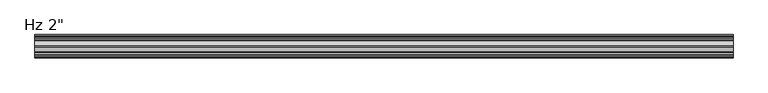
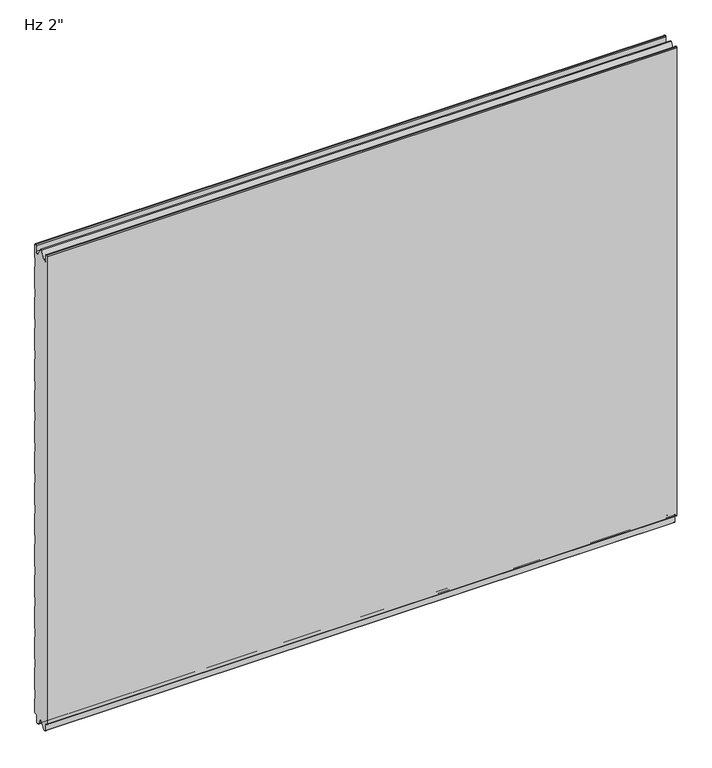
"""IFC4 building model written with IfcOpenShell, lengths in millimetres: plate geometry."""

from ifc_helpers import new_model, si_unit, frame, origin, place, context, project, spatial, polyline, circle_curve, source, transform, mapped, element, save
from ifc_brep_helpers import plane_surface, cylinder_surface, revolved_surface, advanced_brep


def plate_b4bd3f8d(model_context):
    return source(origin(), model_context, "Body", "AdvancedBrep", [
        advanced_brep(
        [(-730.0, -2.9775467, 3.8505994), (-730.0, -5.2690127, 3.8505994), (-730.0, -9.2466047, -0.1269926), (-730.0, -9.2466047, -15.7237817), (-730.0, -9.8343998, -16.3115768), (-730.0, -12.9058755, -16.3115768), (-730.0, -13.4937293, -15.723723), (-730.0, -13.4937293, -13.3687064), (-730.0, -14.4937446, -13.3687064), (-730.0, -14.4937446, -15.6582851), (-730.0, -23.7509179, 0.0), (-730.0, -27.0490865, 0.0), (-730.0, -36.3062598, -15.6582851), (-730.0, -36.3062598, -13.3687064), (-730.0, -37.3062598, -13.3687064), (-730.0, -37.3062598, -15.723742), (-730.0, -37.8941365, -16.3116186), (-730.0, -40.9656854, -16.3116186), (-730.0, -41.5535623, -15.7237417), (-730.0, -41.5535623, -0.1273173), (-730.0, -45.5308295, 3.8499499), (-730.0, -47.8227194, 3.8499499), (-730.0, -49.7999935, 5.8272239), (-730.0, -49.8, 1150.8100652), (-730.0, -47.8227315, 1152.7873337), (-730.0, -46.7806329, 1152.7873337), (-730.0, -44.8033643, 1150.8100652), (-730.0, -44.8033643, 1136.6216802), (-730.0, -42.2154878, 1134.0338036), (-730.0, -37.8950697, 1134.0338036), (-730.0, -37.3060762, 1133.4253365), (-730.0, -37.3060762, 1131.0482432), (-730.0, -36.3066023, 1131.0482432), (-730.0, -36.3066023, 1136.4905123), (-730.0, -27.0490865, 1152.525), (-730.0, -23.7509179, 1152.525), (-730.0, -14.4934021, 1136.4905123), (-730.0, -14.4934021, 1131.0482432), (-730.0, -13.4939418, 1131.0482432), (-730.0, -13.4939418, 1133.4253475), (-730.0, -12.9049279, 1134.0338476), (-730.0, -8.5845971, 1134.0338476), (-730.0, -5.9968035, 1136.6216411), (-730.0, -5.9968035, 1150.8103903), (-730.0, -4.0192093, 1152.7879845), (-730.0, -2.9770147, 1152.7879845), (-730.0, -1.0005251, 1150.811495), (-730.0, -1.0005251, 1118.6385351), (-730.0, -2.1911639, 1117.5660142), (-730.0, -2.1911639, 1097.7830195), (-730.0, -1.0000044, 1096.7104947), (-730.0, -1.0000044, 1043.0159187), (-730.0, -2.1911639, 1041.9433939), (-730.0, -2.1911639, 1022.1603992), (-730.0, -1.0000044, 1021.0878744), (-730.0, -1.0000044, 967.3932985), (-730.0, -2.1911639, 966.3207736), (-730.0, -2.1911639, 946.537779), (-730.0, -1.0000044, 945.4652541), (-730.0, -1.0000044, 891.7706782), (-730.0, -2.1911639, 890.6981534), (-730.0, -2.1911639, 870.9151587), (-730.0, -1.0000044, 869.8426339), (-730.0, -1.0000044, 816.148058), (-730.0, -2.1911639, 815.0755331), (-730.0, -2.1911639, 795.2925384), (-730.0, -1.0000044, 794.2200136), (-730.0, -1.0000044, 740.5254377), (-730.0, -2.1911639, 739.4529129), (-730.0, -2.1911639, 719.6699182), (-730.0, -1.0000044, 718.5973933), (-730.0, -1.0000044, 664.9028174), (-730.0, -2.1911639, 663.8302926), (-730.0, -2.1911639, 644.0472979), (-730.0, -1.0000044, 642.9747731), (-730.0, -1.0000044, 589.2801972), (-730.0, -2.1911639, 588.2076723), (-730.0, -2.1911639, 568.4246776), (-730.0, -1.0000044, 567.3521528), (-730.0, -1.0000044, 513.6575769), (-730.0, -2.1911639, 512.5850521), (-730.0, -2.1911639, 492.8020574), (-730.0, -1.0000044, 491.7295325), (-730.0, -1.0000044, 438.0349566), (-730.0, -2.1911639, 436.9624318), (-730.0, -2.1911639, 417.1794371), (-730.0, -1.0000044, 416.1069123), (-730.0, -1.0000044, 362.4123364), (-730.0, -2.1911639, 361.3398115), (-730.0, -2.1911639, 341.5568169), (-730.0, -1.0000044, 340.484292), (-730.0, -1.0000044, 286.7897161), (-730.0, -2.1911639, 285.7171913), (-730.0, -2.1911639, 265.9341966), (-730.0, -1.0000044, 264.8616718), (-730.0, -1.0000044, 211.1670958), (-730.0, -2.1911639, 210.094571), (-730.0, -2.1911639, 190.3115763), (-730.0, -1.0000044, 189.2390515), (-730.0, -1.0000044, 135.5444756), (-730.0, -2.1911639, 134.4719507), (-730.0, -2.1911639, 114.6889561), (-730.0, -1.0000044, 113.6164312), (-730.0, -1.0000044, 59.9218553), (-730.0, -2.1911639, 58.8493305), (-730.0, -2.1911639, 39.0663358), (-730.0, -0.9994917, 37.993811), (-730.0, -0.9994917, 5.8286544), (730.0, -2.9775467, 3.8505994), (730.0, -0.9994917, 5.8286544), (730.0, -0.9994917, 37.993811), (730.0, -2.1911639, 39.0663358), (730.0, -2.1911639, 58.8493305), (730.0, -1.0000044, 59.9218553), (730.0, -1.0000044, 113.6164312), (730.0, -2.1911639, 114.6889561), (730.0, -2.1911639, 134.4719507), (730.0, -1.0000044, 135.5444756), (730.0, -1.0000044, 189.2390515), (730.0, -2.1911639, 190.3115763), (730.0, -2.1911639, 210.094571), (730.0, -1.0000044, 211.1670958), (730.0, -1.0000044, 264.8616718), (730.0, -2.1911639, 265.9341966), (730.0, -2.1911639, 285.7171913), (730.0, -1.0000044, 286.7897161), (730.0, -1.0000044, 340.484292), (730.0, -2.1911639, 341.5568169), (730.0, -2.1911639, 361.3398115), (730.0, -1.0000044, 362.4123364), (730.0, -1.0000044, 416.1069123), (730.0, -2.1911639, 417.1794371), (730.0, -2.1911639, 436.9624318), (730.0, -1.0000044, 438.0349566), (730.0, -1.0000044, 491.7295325), (730.0, -2.1911639, 492.8020574), (730.0, -2.1911639, 512.5850521), (730.0, -1.0000044, 513.6575769), (730.0, -1.0000044, 567.3521528), (730.0, -2.1911639, 568.4246776), (730.0, -2.1911639, 588.2076723), (730.0, -1.0000044, 589.2801972), (730.0, -1.0000044, 642.9747731), (730.0, -2.1911639, 644.0472979), (730.0, -2.1911639, 663.8302926), (730.0, -1.0000044, 664.9028174), (730.0, -1.0000044, 718.5973933), (730.0, -2.1911639, 719.6699182), (730.0, -2.1911639, 739.4529129), (730.0, -1.0000044, 740.5254377), (730.0, -1.0000044, 794.2200136), (730.0, -2.1911639, 795.2925384), (730.0, -2.1911639, 815.0755331), (730.0, -1.0000044, 816.148058), (730.0, -1.0000044, 869.8426339), (730.0, -2.1911639, 870.9151587), (730.0, -2.1911639, 890.6981534), (730.0, -1.0000044, 891.7706782), (730.0, -1.0000044, 945.4652541), (730.0, -2.1911639, 946.537779), (730.0, -2.1911639, 966.3207736), (730.0, -1.0000044, 967.3932985), (730.0, -1.0000044, 1021.0878744), (730.0, -2.1911639, 1022.1603992), (730.0, -2.1911639, 1041.9433939), (730.0, -1.0000044, 1043.0159187), (730.0, -1.0000044, 1096.7104947), (730.0, -2.1911639, 1097.7830195), (730.0, -2.1911639, 1117.5660142), (730.0, -1.0005251, 1118.6385351), (730.0, -1.0005251, 1150.811495), (730.0, -2.9770147, 1152.7879845), (730.0, -4.0192093, 1152.7879845), (730.0, -5.9968035, 1150.8103903), (730.0, -5.9968035, 1136.6216411), (730.0, -8.5845971, 1134.0338476), (730.0, -12.9049279, 1134.0338476), (730.0, -13.4939418, 1133.4253475), (730.0, -13.4939418, 1131.0482432), (730.0, -14.4934021, 1131.0482432), (730.0, -14.4934021, 1136.4905123), (730.0, -23.7509179, 1152.525), (730.0, -27.0490865, 1152.525), (730.0, -36.3066023, 1136.4905123), (730.0, -36.3066023, 1131.0482432), (730.0, -37.3060762, 1131.0482432), (730.0, -37.3060762, 1133.4253365), (730.0, -37.8950697, 1134.0338036), (730.0, -42.2154878, 1134.0338036), (730.0, -44.8033643, 1136.6216802), (730.0, -44.8033643, 1150.8100652), (730.0, -46.7806329, 1152.7873337), (730.0, -47.8227315, 1152.7873337), (730.0, -49.8, 1150.8100652), (730.0, -49.8, 5.8272239), (730.0, -47.8227194, 3.8499499), (730.0, -45.5308295, 3.8499499), (730.0, -41.5535623, -0.1273173), (730.0, -41.5535623, -15.7237417), (730.0, -40.9656854, -16.3116186), (730.0, -37.8941365, -16.3116186), (730.0, -37.3062598, -15.723742), (730.0, -37.3062598, -13.3687064), (730.0, -36.3062598, -13.3687064), (730.0, -36.3062598, -15.6582851), (730.0, -27.0490865, 0.0), (730.0, -23.7509179, 0.0), (730.0, -14.4937446, -15.6582851), (730.0, -14.4937446, -13.3687064), (730.0, -13.4937293, -13.3687064), (730.0, -13.4937293, -15.723723), (730.0, -12.9058755, -16.3115768), (730.0, -9.8343998, -16.3115768), (730.0, -9.2466047, -15.7237817), (730.0, -9.2466047, -0.1269926), (730.0, -5.2690127, 3.8505994)],
        [
            (0, 1),
            (1, 2, circle_curve(frame((-730.0, -5.2690127, -0.1269926), z_axis=(1.0, 0.0, 0.0), x_axis=(0.0, 1.0, 0.0)), 3.977592)),
            (2, 3),
            (3, 4, circle_curve(frame((-730.0, -9.8343998, -15.7237817), z_axis=(-1.0, 0.0, 0.0), x_axis=(0.0, 1.0, 0.0)), 0.5877951)),
            (4, 5),
            (5, 6, circle_curve(frame((-730.0, -12.9058755, -15.723723), z_axis=(-1.0, 0.0, 0.0), x_axis=(0.0, 1.0, 0.0)), 0.5878538)),
            (6, 7),
            (7, 8),
            (8, 9),
            (9, 10),
            (10, 11),
            (11, 12),
            (12, 13),
            (13, 14),
            (14, 15),
            (15, 16, circle_curve(frame((-730.0, -37.8941365, -15.723742), z_axis=(-1.0, 0.0, 0.0), x_axis=(0.0, 1.0, 0.0)), 0.5878766)),
            (16, 17),
            (17, 18, circle_curve(frame((-730.0, -40.9656854, -15.7237417), z_axis=(-1.0, 0.0, 0.0), x_axis=(0.0, 1.0, 0.0)), 0.5878769)),
            (18, 19),
            (19, 20, circle_curve(frame((-730.0, -45.5308295, -0.1273173), z_axis=(1.0, 0.0, 0.0), x_axis=(0.0, 1.0, 0.0)), 3.9772671)),
            (20, 21),
            (21, 22, circle_curve(frame((-730.0, -47.8227194, 5.8272239), z_axis=(-1.0, 0.0, 0.0), x_axis=(0.0, 1.0, 0.0)), 1.977274)),
            (22, 23),
            (23, 24, circle_curve(frame((-730.0, -47.8227315, 1150.8100652), z_axis=(-1.0, 0.0, 0.0), x_axis=(0.0, 1.0, 0.0)), 1.9772685)),
            (24, 25),
            (25, 26, circle_curve(frame((-730.0, -46.7806329, 1150.8100652), z_axis=(-1.0, 0.0, 0.0), x_axis=(0.0, 1.0, 0.0)), 1.9772685)),
            (26, 27),
            (27, 28, circle_curve(frame((-730.0, -42.2154878, 1136.6216802), z_axis=(1.0, 0.0, 0.0), x_axis=(0.0, 1.0, 0.0)), 2.5878765)),
            (28, 29),
            (29, 30, circle_curve(frame((-730.0, -37.8950697, 1133.4444985), z_axis=(-1.0, 0.0, 0.0), x_axis=(0.0, 1.0, 0.0)), 0.5893051)),
            (30, 31),
            (31, 32),
            (32, 33),
            (33, 34),
            (34, 35),
            (35, 36),
            (36, 37),
            (37, 38),
            (38, 39),
            (39, 40, circle_curve(frame((-730.0, -12.9049279, 1133.4445216), z_axis=(-1.0, 0.0, 0.0), x_axis=(0.0, 1.0, 0.0)), 0.589326)),
            (40, 41),
            (41, 42, circle_curve(frame((-730.0, -8.5845971, 1136.6216411), z_axis=(1.0, 0.0, 0.0), x_axis=(0.0, 1.0, 0.0)), 2.5877935)),
            (42, 43),
            (43, 44, circle_curve(frame((-730.0, -4.0192093, 1150.8103903), z_axis=(-1.0, 0.0, 0.0), x_axis=(0.0, 1.0, 0.0)), 1.9775943)),
            (44, 45),
            (45, 46, circle_curve(frame((-730.0, -2.9770147, 1150.811495), z_axis=(-1.0, 0.0, 0.0), x_axis=(0.0, 1.0, 0.0)), 1.9764896)),
            (46, 47),
            (47, 48),
            (48, 49),
            (49, 50),
            (50, 51),
            (51, 52),
            (52, 53),
            (53, 54),
            (54, 55),
            (55, 56),
            (56, 57),
            (57, 58),
            (58, 59),
            (59, 60),
            (60, 61),
            (61, 62),
            (62, 63),
            (63, 64),
            (64, 65),
            (65, 66),
            (66, 67),
            (67, 68),
            (68, 69),
            (69, 70),
            (70, 71),
            (71, 72),
            (72, 73),
            (73, 74),
            (74, 75),
            (75, 76),
            (76, 77),
            (77, 78),
            (78, 79),
            (79, 80),
            (80, 81),
            (81, 82),
            (82, 83),
            (83, 84),
            (84, 85),
            (85, 86),
            (86, 87),
            (87, 88),
            (88, 89),
            (89, 90),
            (90, 91),
            (91, 92),
            (92, 93),
            (93, 94),
            (94, 95),
            (95, 96),
            (96, 97),
            (97, 98),
            (98, 99),
            (99, 100),
            (100, 101),
            (101, 102),
            (102, 103),
            (103, 104),
            (104, 105),
            (105, 106),
            (106, 107),
            (107, 0, circle_curve(frame((-730.0, -2.9775467, 5.8286544), z_axis=(-1.0, 0.0, 0.0), x_axis=(0.0, 1.0, 0.0)), 1.978055)),
            (108, 109, circle_curve(frame((730.0, -2.9775467, 5.8286544), z_axis=(1.0, 0.0, 0.0), x_axis=(0.0, 1.0, 0.0)), 1.978055)),
            (109, 110),
            (110, 111),
            (111, 112),
            (112, 113),
            (113, 114),
            (114, 115),
            (115, 116),
            (116, 117),
            (117, 118),
            (118, 119),
            (119, 120),
            (120, 121),
            (121, 122),
            (122, 123),
            (123, 124),
            (124, 125),
            (125, 126),
            (126, 127),
            (127, 128),
            (128, 129),
            (129, 130),
            (130, 131),
            (131, 132),
            (132, 133),
            (133, 134),
            (134, 135),
            (135, 136),
            (136, 137),
            (137, 138),
            (138, 139),
            (139, 140),
            (140, 141),
            (141, 142),
            (142, 143),
            (143, 144),
            (144, 145),
            (145, 146),
            (146, 147),
            (147, 148),
            (148, 149),
            (149, 150),
            (150, 151),
            (151, 152),
            (152, 153),
            (153, 154),
            (154, 155),
            (155, 156),
            (156, 157),
            (157, 158),
            (158, 159),
            (159, 160),
            (160, 161),
            (161, 162),
            (162, 163),
            (163, 164),
            (164, 165),
            (165, 166),
            (166, 167),
            (167, 168),
            (168, 169),
            (169, 170),
            (170, 171, circle_curve(frame((730.0, -2.9770147, 1150.811495), z_axis=(1.0, 0.0, 0.0), x_axis=(0.0, 1.0, 0.0)), 1.9764896)),
            (171, 172),
            (172, 173, circle_curve(frame((730.0, -4.0192093, 1150.8103903), z_axis=(1.0, 0.0, 0.0), x_axis=(0.0, 1.0, 0.0)), 1.9775943)),
            (173, 174),
            (174, 175, circle_curve(frame((730.0, -8.5845971, 1136.6216411), z_axis=(-1.0, 0.0, 0.0), x_axis=(0.0, 1.0, 0.0)), 2.5877935)),
            (175, 176),
            (176, 177, circle_curve(frame((730.0, -12.9049279, 1133.4445216), z_axis=(1.0, 0.0, 0.0), x_axis=(0.0, 1.0, 0.0)), 0.589326)),
            (177, 178),
            (178, 179),
            (179, 180),
            (180, 181),
            (181, 182),
            (182, 183),
            (183, 184),
            (184, 185),
            (185, 186),
            (186, 187, circle_curve(frame((730.0, -37.8950697, 1133.4444985), z_axis=(1.0, 0.0, 0.0), x_axis=(0.0, 1.0, 0.0)), 0.5893051)),
            (187, 188),
            (188, 189, circle_curve(frame((730.0, -42.2154878, 1136.6216802), z_axis=(-1.0, 0.0, 0.0), x_axis=(0.0, 1.0, 0.0)), 2.5878765)),
            (189, 190),
            (190, 191, circle_curve(frame((730.0, -46.7806329, 1150.8100652), z_axis=(1.0, 0.0, 0.0), x_axis=(0.0, 1.0, 0.0)), 1.9772685)),
            (191, 192),
            (192, 193, circle_curve(frame((730.0, -47.8227315, 1150.8100652), z_axis=(1.0, 0.0, 0.0), x_axis=(0.0, 1.0, 0.0)), 1.9772685)),
            (193, 194),
            (194, 195, circle_curve(frame((730.0, -47.8227194, 5.8272239), z_axis=(1.0, 0.0, 0.0), x_axis=(0.0, 1.0, 0.0)), 1.977274)),
            (195, 196),
            (196, 197, circle_curve(frame((730.0, -45.5308295, -0.1273173), z_axis=(-1.0, 0.0, 0.0), x_axis=(0.0, 1.0, 0.0)), 3.9772671)),
            (197, 198),
            (198, 199, circle_curve(frame((730.0, -40.9656854, -15.7237417), z_axis=(1.0, 0.0, 0.0), x_axis=(0.0, 1.0, 0.0)), 0.5878769)),
            (199, 200),
            (200, 201, circle_curve(frame((730.0, -37.8941365, -15.723742), z_axis=(1.0, 0.0, 0.0), x_axis=(0.0, 1.0, 0.0)), 0.5878766)),
            (201, 202),
            (202, 203),
            (203, 204),
            (204, 205),
            (205, 206),
            (206, 207),
            (207, 208),
            (208, 209),
            (209, 210),
            (210, 211, circle_curve(frame((730.0, -12.9058755, -15.723723), z_axis=(1.0, 0.0, 0.0), x_axis=(0.0, 1.0, 0.0)), 0.5878538)),
            (211, 212),
            (212, 213, circle_curve(frame((730.0, -9.8343998, -15.7237817), z_axis=(1.0, 0.0, 0.0), x_axis=(0.0, 1.0, 0.0)), 0.5877951)),
            (213, 214),
            (214, 215, circle_curve(frame((730.0, -5.2690127, -0.1269926), z_axis=(-1.0, 0.0, 0.0), x_axis=(0.0, 1.0, 0.0)), 3.977592)),
            (215, 108),
            (107, 109),
            (108, 0),
            (46, 170),
            (169, 47),
            (45, 171),
            (44, 172),
            (43, 173),
            (42, 174),
            (41, 175),
            (40, 176),
            (39, 177),
            (38, 178),
            (37, 179),
            (36, 180),
            (35, 181),
            (34, 182),
            (33, 183),
            (32, 184),
            (31, 185),
            (30, 186),
            (29, 187),
            (28, 188),
            (27, 189),
            (26, 190),
            (25, 191),
            (24, 192),
            (23, 193),
            (22, 194),
            (21, 195),
            (20, 196),
            (19, 197),
            (18, 198),
            (17, 199),
            (16, 200),
            (15, 201),
            (14, 202),
            (13, 203),
            (12, 204),
            (11, 205),
            (10, 206),
            (9, 207),
            (8, 208),
            (7, 209),
            (6, 210),
            (5, 211),
            (4, 212),
            (3, 213),
            (2, 214),
            (1, 215),
            (106, 110),
            (105, 111),
            (104, 112),
            (103, 113),
            (102, 114),
            (101, 115),
            (100, 116),
            (99, 117),
            (98, 118),
            (97, 119),
            (96, 120),
            (95, 121),
            (94, 122),
            (93, 123),
            (92, 124),
            (91, 125),
            (90, 126),
            (89, 127),
            (88, 128),
            (87, 129),
            (86, 130),
            (85, 131),
            (84, 132),
            (83, 133),
            (82, 134),
            (81, 135),
            (80, 136),
            (79, 137),
            (78, 138),
            (77, 139),
            (76, 140),
            (75, 141),
            (74, 142),
            (73, 143),
            (72, 144),
            (71, 145),
            (70, 146),
            (69, 147),
            (68, 148),
            (67, 149),
            (66, 150),
            (65, 151),
            (64, 152),
            (63, 153),
            (62, 154),
            (61, 155),
            (60, 156),
            (59, 157),
            (58, 158),
            (57, 159),
            (56, 160),
            (55, 161),
            (54, 162),
            (53, 163),
            (52, 164),
            (51, 165),
            (50, 166),
            (49, 167),
            (48, 168),
        ],
        [
            plane_surface(frame((-730.0, -49.8, 576.2625), z_axis=(-1.0, 0.0, 0.0), x_axis=(0.0, -1.0, 0.0))),
            plane_surface(frame((730.0, -49.8, 576.2625), z_axis=(1.0, 0.0, 0.0), x_axis=(0.0, -1.0, 0.0))),
            cylinder_surface(frame((-730.0, -2.9775467, 5.8286544), z_axis=(-1.0, 0.0, 0.0), x_axis=(0.0, 1.0, 0.0)), 1.978055),
            plane_surface(frame((-730.0, -1.0005251, 1118.6385351), z_axis=(0.0, 1.0, 0.0), x_axis=(1.0, 0.0, 0.0))),
            cylinder_surface(frame((-730.0, -2.9770147, 1150.811495), z_axis=(-1.0, 0.0, 0.0), x_axis=(0.0, 1.0, 0.0)), 1.9764896),
            plane_surface(frame((-730.0, -2.9770147, 1152.7879845), z_axis=(0.0, 0.0, 1.0), x_axis=(1.0, 0.0, 0.0))),
            cylinder_surface(frame((-730.0, -4.0192093, 1150.8103903), z_axis=(-1.0, 0.0, 0.0), x_axis=(0.0, 1.0, 0.0)), 1.9775943),
            plane_surface(frame((-730.0, -5.9968035, 1150.8103903), z_axis=(0.0, -1.0, 0.0), x_axis=(1.0, 0.0, 0.0))),
            revolved_surface(polyline([(730.0, -5.9968036, 1136.6216411), (-730.0, -5.9968036, 1136.6216411)]), (-730.0, -8.5845971, 1136.6216411), (1.0, 0.0, 0.0)),
            plane_surface(frame((-730.0, -8.5845971, 1134.0338476), z_axis=(0.0, 0.0, 1.0), x_axis=(1.0, 0.0, 0.0))),
            cylinder_surface(frame((-730.0, -12.9049279, 1133.4445216), z_axis=(-1.0, 0.0, 0.0), x_axis=(0.0, 1.0, 0.0)), 0.589326),
            plane_surface(frame((-730.0, -13.4939418, 1133.4253475), z_axis=(0.0, -1.0, 0.0), x_axis=(1.0, 0.0, 0.0))),
            plane_surface(frame((-730.0, -13.4939418, 1131.0482432), z_axis=(0.0, 0.0, 1.0), x_axis=(1.0, 0.0, 0.0))),
            plane_surface(frame((-730.0, -14.4934021, 1131.0482432), z_axis=(0.0, 1.0, 0.0), x_axis=(1.0, 0.0, 0.0))),
            plane_surface(frame((-730.0, -14.4934021, 1136.4905123), z_axis=(0.0, 0.8660254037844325, 0.5000000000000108), x_axis=(1.0, 0.0, 0.0))),
            plane_surface(frame((-730.0, -23.7509179, 1152.525), z_axis=(0.0, 0.0, 1.0), x_axis=(1.0, 0.0, 0.0))),
            plane_surface(frame((-730.0, -27.0490865, 1152.525), z_axis=(0.0, -0.8660254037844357, 0.5000000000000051), x_axis=(1.0, 0.0, 0.0))),
            plane_surface(frame((-730.0, -36.3066023, 1136.4905123), z_axis=(0.0, -1.0, 0.0), x_axis=(1.0, 0.0, 0.0))),
            plane_surface(frame((-730.0, -36.3066023, 1131.0482432), z_axis=(0.0, 0.0, 1.0), x_axis=(1.0, 0.0, 0.0))),
            plane_surface(frame((-730.0, -37.3060762, 1131.0482432), z_axis=(0.0, 1.0, 0.0), x_axis=(1.0, 0.0, 0.0))),
            cylinder_surface(frame((-730.0, -37.8950697, 1133.4444985), z_axis=(-1.0, 0.0, 0.0), x_axis=(0.0, 1.0, 0.0)), 0.5893051),
            plane_surface(frame((-730.0, -37.8950697, 1134.0338036), z_axis=(0.0, 0.0, 1.0), x_axis=(1.0, 0.0, 0.0))),
            revolved_surface(polyline([(730.0, -39.6276113, 1136.6216802), (-730.0, -39.6276113, 1136.6216802)]), (-730.0, -42.2154878, 1136.6216802), (1.0, 0.0, 0.0)),
            plane_surface(frame((-730.0, -44.8033643, 1136.6216802), z_axis=(0.0, 1.0, 0.0), x_axis=(1.0, 0.0, 0.0))),
            cylinder_surface(frame((-730.0, -46.7806329, 1150.8100652), z_axis=(-1.0, 0.0, 0.0), x_axis=(0.0, 1.0, 0.0)), 1.9772685),
            plane_surface(frame((-730.0, -46.7806329, 1152.7873337), z_axis=(0.0, 0.0, 1.0), x_axis=(1.0, 0.0, 0.0))),
            cylinder_surface(frame((-730.0, -47.8227315, 1150.8100652), z_axis=(-1.0, 0.0, 0.0), x_axis=(0.0, 1.0, 0.0)), 1.9772685),
            plane_surface(frame((-730.0, -49.8, 1150.8100652), z_axis=(0.0, -1.0, 0.0), x_axis=(1.0, 0.0, 0.0))),
            cylinder_surface(frame((-730.0, -47.8227194, 5.8272239), z_axis=(-1.0, 0.0, 0.0), x_axis=(0.0, 1.0, 0.0)), 1.977274),
            plane_surface(frame((-730.0, -47.8227194, 3.8499499), z_axis=(0.0, 0.0, -1.0), x_axis=(1.0, 0.0, 0.0))),
            revolved_surface(polyline([(730.0, -41.553562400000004, -0.1273173), (-730.0, -41.553562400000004, -0.1273173)]), (-730.0, -45.5308295, -0.1273173), (1.0, 0.0, 0.0)),
            plane_surface(frame((-730.0, -41.5535623, -0.1273173), z_axis=(0.0, -1.0, 0.0), x_axis=(1.0, 0.0, 0.0))),
            cylinder_surface(frame((-730.0, -40.9656854, -15.7237417), z_axis=(-1.0, 0.0, 0.0), x_axis=(0.0, 1.0, 0.0)), 0.5878769),
            plane_surface(frame((-730.0, -40.9656854, -16.3116186), z_axis=(0.0, 0.0, -1.0), x_axis=(1.0, 0.0, 0.0))),
            cylinder_surface(frame((-730.0, -37.8941365, -15.723742), z_axis=(-1.0, 0.0, 0.0), x_axis=(0.0, 1.0, 0.0)), 0.5878766),
            plane_surface(frame((-730.0, -37.3062598, -15.723742), z_axis=(0.0, 1.0, 0.0), x_axis=(1.0, 0.0, 0.0))),
            plane_surface(frame((-730.0, -37.3062598, -13.3687064), z_axis=(0.0, 0.0, -1.0), x_axis=(1.0, 0.0, 0.0))),
            plane_surface(frame((-730.0, -36.3062598, -13.3687064), z_axis=(0.0, -1.0, 0.0), x_axis=(1.0, 0.0, 0.0))),
            plane_surface(frame((-730.0, -36.3062598, -15.6582851), z_axis=(0.0, 0.8608169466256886, -0.5089147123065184), x_axis=(1.0, 0.0, 0.0))),
            plane_surface(frame((-730.0, -27.0490865, 0.0), z_axis=(0.0, 0.0, -1.0), x_axis=(1.0, 0.0, 0.0))),
            plane_surface(frame((-730.0, -23.7509179, 0.0), z_axis=(0.0, -0.8608169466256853, -0.5089147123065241), x_axis=(1.0, 0.0, 0.0))),
            plane_surface(frame((-730.0, -14.4937446, -15.6582851), z_axis=(0.0, 1.0, 0.0), x_axis=(1.0, 0.0, 0.0))),
            plane_surface(frame((-730.0, -14.4937446, -13.3687064), z_axis=(0.0, 0.0, -1.0), x_axis=(1.0, 0.0, 0.0))),
            plane_surface(frame((-730.0, -13.4937293, -13.3687064), z_axis=(0.0, -1.0, 0.0), x_axis=(1.0, 0.0, 0.0))),
            cylinder_surface(frame((-730.0, -12.9058755, -15.723723), z_axis=(-1.0, 0.0, 0.0), x_axis=(0.0, 1.0, 0.0)), 0.5878538),
            plane_surface(frame((-730.0, -12.9058755, -16.3115768), z_axis=(0.0, 0.0, -1.0), x_axis=(1.0, 0.0, 0.0))),
            cylinder_surface(frame((-730.0, -9.8343998, -15.7237817), z_axis=(-1.0, 0.0, 0.0), x_axis=(0.0, 1.0, 0.0)), 0.5877951),
            plane_surface(frame((-730.0, -9.2466047, -15.7237817), z_axis=(0.0, 1.0, 0.0), x_axis=(1.0, 0.0, 0.0))),
            revolved_surface(polyline([(730.0, -1.2914207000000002, -0.1269926), (-730.0, -1.2914207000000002, -0.1269926)]), (-730.0, -5.2690127, -0.1269926), (1.0, 0.0, 0.0)),
            plane_surface(frame((-730.0, -5.2690127, 3.8505994), z_axis=(0.0, 0.0, -1.0), x_axis=(1.0, 0.0, 0.0))),
            plane_surface(frame((-730.0, -0.9994917, 5.8286544), z_axis=(0.0, 1.0, 0.0), x_axis=(1.0, 0.0, 0.0))),
            plane_surface(frame((-730.0, -0.9994917, 37.993811), z_axis=(0.0, 0.6689715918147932, 0.7432879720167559), x_axis=(1.0, 0.0, 0.0))),
            plane_surface(frame((-730.0, -2.1911639, 39.0663358), z_axis=(0.0, 1.0, 0.0), x_axis=(1.0, 0.0, 0.0))),
            plane_surface(frame((-730.0, -2.1911639, 58.8493305), z_axis=(0.0, 0.6691306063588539, -0.7431448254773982), x_axis=(1.0, 0.0, 0.0))),
            plane_surface(frame((-730.0, -1.0000044, 59.9218553), z_axis=(0.0, 1.0, 0.0), x_axis=(1.0, 0.0, 0.0))),
            plane_surface(frame((-730.0, -1.0000044, 113.6164312), z_axis=(0.0, 0.6691306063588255, 0.7431448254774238), x_axis=(1.0, 0.0, 0.0))),
            plane_surface(frame((-730.0, -2.1911639, 114.6889561), z_axis=(0.0, 1.0, 0.0), x_axis=(1.0, 0.0, 0.0))),
            plane_surface(frame((-730.0, -2.1911639, 134.4719507), z_axis=(0.0, 0.6691306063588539, -0.7431448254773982), x_axis=(1.0, 0.0, 0.0))),
            plane_surface(frame((-730.0, -1.0000044, 135.5444756), z_axis=(0.0, 1.0, 0.0), x_axis=(1.0, 0.0, 0.0))),
            plane_surface(frame((-730.0, -1.0000044, 189.2390515), z_axis=(0.0, 0.669130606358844, 0.743144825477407), x_axis=(1.0, 0.0, 0.0))),
            plane_surface(frame((-730.0, -2.1911639, 190.3115763), z_axis=(0.0, 1.0, 0.0), x_axis=(1.0, 0.0, 0.0))),
            plane_surface(frame((-730.0, -2.1911639, 210.094571), z_axis=(0.0, 0.6691306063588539, -0.7431448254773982), x_axis=(1.0, 0.0, 0.0))),
            plane_surface(frame((-730.0, -1.0000044, 211.1670958), z_axis=(0.0, 1.0, 0.0), x_axis=(1.0, 0.0, 0.0))),
            plane_surface(frame((-730.0, -1.0000044, 264.8616718), z_axis=(0.0, 0.6691306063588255, 0.7431448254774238), x_axis=(1.0, 0.0, 0.0))),
            plane_surface(frame((-730.0, -2.1911639, 265.9341966), z_axis=(0.0, 1.0, 0.0), x_axis=(1.0, 0.0, 0.0))),
            plane_surface(frame((-730.0, -2.1911639, 285.7171913), z_axis=(0.0, 0.6691306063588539, -0.7431448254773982), x_axis=(1.0, 0.0, 0.0))),
            plane_surface(frame((-730.0, -1.0000044, 286.7897161), z_axis=(0.0, 1.0, 0.0), x_axis=(1.0, 0.0, 0.0))),
            plane_surface(frame((-730.0, -1.0000044, 340.484292), z_axis=(0.0, 0.669130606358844, 0.743144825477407), x_axis=(1.0, 0.0, 0.0))),
            plane_surface(frame((-730.0, -2.1911639, 341.5568169), z_axis=(0.0, 1.0, 0.0), x_axis=(1.0, 0.0, 0.0))),
            plane_surface(frame((-730.0, -2.1911639, 361.3398115), z_axis=(0.0, 0.6691306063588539, -0.7431448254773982), x_axis=(1.0, 0.0, 0.0))),
            plane_surface(frame((-730.0, -1.0000044, 362.4123364), z_axis=(0.0, 1.0, 0.0), x_axis=(1.0, 0.0, 0.0))),
            plane_surface(frame((-730.0, -1.0000044, 416.1069123), z_axis=(0.0, 0.669130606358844, 0.743144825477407), x_axis=(1.0, 0.0, 0.0))),
            plane_surface(frame((-730.0, -2.1911639, 417.1794371), z_axis=(0.0, 1.0, 0.0), x_axis=(1.0, 0.0, 0.0))),
            plane_surface(frame((-730.0, -2.1911639, 436.9624318), z_axis=(0.0, 0.6691306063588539, -0.7431448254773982), x_axis=(1.0, 0.0, 0.0))),
            plane_surface(frame((-730.0, -1.0000044, 438.0349566), z_axis=(0.0, 1.0, 0.0), x_axis=(1.0, 0.0, 0.0))),
            plane_surface(frame((-730.0, -1.0000044, 491.7295325), z_axis=(0.0, 0.6691306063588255, 0.7431448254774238), x_axis=(1.0, 0.0, 0.0))),
            plane_surface(frame((-730.0, -2.1911639, 492.8020574), z_axis=(0.0, 1.0, 0.0), x_axis=(1.0, 0.0, 0.0))),
            plane_surface(frame((-730.0, -2.1911639, 512.5850521), z_axis=(0.0, 0.6691306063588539, -0.7431448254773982), x_axis=(1.0, 0.0, 0.0))),
            plane_surface(frame((-730.0, -1.0000044, 513.6575769), z_axis=(0.0, 1.0, 0.0), x_axis=(1.0, 0.0, 0.0))),
            plane_surface(frame((-730.0, -1.0000044, 567.3521528), z_axis=(0.0, 0.669130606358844, 0.743144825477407), x_axis=(1.0, 0.0, 0.0))),
            plane_surface(frame((-730.0, -2.1911639, 568.4246776), z_axis=(0.0, 1.0, 0.0), x_axis=(1.0, 0.0, 0.0))),
            plane_surface(frame((-730.0, -2.1911639, 588.2076723), z_axis=(0.0, 0.6691306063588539, -0.7431448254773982), x_axis=(1.0, 0.0, 0.0))),
            plane_surface(frame((-730.0, -1.0000044, 589.2801972), z_axis=(0.0, 1.0, 0.0), x_axis=(1.0, 0.0, 0.0))),
            plane_surface(frame((-730.0, -1.0000044, 642.9747731), z_axis=(0.0, 0.6691306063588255, 0.7431448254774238), x_axis=(1.0, 0.0, 0.0))),
            plane_surface(frame((-730.0, -2.1911639, 644.0472979), z_axis=(0.0, 1.0, 0.0), x_axis=(1.0, 0.0, 0.0))),
            plane_surface(frame((-730.0, -2.1911639, 663.8302926), z_axis=(0.0, 0.6691306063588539, -0.7431448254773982), x_axis=(1.0, 0.0, 0.0))),
            plane_surface(frame((-730.0, -1.0000044, 664.9028174), z_axis=(0.0, 1.0, 0.0), x_axis=(1.0, 0.0, 0.0))),
            plane_surface(frame((-730.0, -1.0000044, 718.5973933), z_axis=(0.0, 0.669130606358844, 0.743144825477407), x_axis=(1.0, 0.0, 0.0))),
            plane_surface(frame((-730.0, -2.1911639, 719.6699182), z_axis=(0.0, 1.0, 0.0), x_axis=(1.0, 0.0, 0.0))),
            plane_surface(frame((-730.0, -2.1911639, 739.4529129), z_axis=(0.0, 0.6691306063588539, -0.7431448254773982), x_axis=(1.0, 0.0, 0.0))),
            plane_surface(frame((-730.0, -1.0000044, 740.5254377), z_axis=(0.0, 1.0, 0.0), x_axis=(1.0, 0.0, 0.0))),
            plane_surface(frame((-730.0, -1.0000044, 794.2200136), z_axis=(0.0, 0.6691306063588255, 0.7431448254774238), x_axis=(1.0, 0.0, 0.0))),
            plane_surface(frame((-730.0, -2.1911639, 795.2925384), z_axis=(0.0, 1.0, 0.0), x_axis=(1.0, 0.0, 0.0))),
            plane_surface(frame((-730.0, -2.1911639, 815.0755331), z_axis=(0.0, 0.6691306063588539, -0.7431448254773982), x_axis=(1.0, 0.0, 0.0))),
            plane_surface(frame((-730.0, -1.0000044, 816.148058), z_axis=(0.0, 1.0, 0.0), x_axis=(1.0, 0.0, 0.0))),
            plane_surface(frame((-730.0, -1.0000044, 869.8426339), z_axis=(0.0, 0.669130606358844, 0.743144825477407), x_axis=(1.0, 0.0, 0.0))),
            plane_surface(frame((-730.0, -2.1911639, 870.9151587), z_axis=(0.0, 1.0, 0.0), x_axis=(1.0, 0.0, 0.0))),
            plane_surface(frame((-730.0, -2.1911639, 890.6981534), z_axis=(0.0, 0.6691306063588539, -0.7431448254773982), x_axis=(1.0, 0.0, 0.0))),
            plane_surface(frame((-730.0, -1.0000044, 891.7706782), z_axis=(0.0, 1.0, 0.0), x_axis=(1.0, 0.0, 0.0))),
            plane_surface(frame((-730.0, -1.0000044, 945.4652541), z_axis=(0.0, 0.669130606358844, 0.743144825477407), x_axis=(1.0, 0.0, 0.0))),
            plane_surface(frame((-730.0, -2.1911639, 946.537779), z_axis=(0.0, 1.0, 0.0), x_axis=(1.0, 0.0, 0.0))),
            plane_surface(frame((-730.0, -2.1911639, 966.3207736), z_axis=(0.0, 0.6691306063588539, -0.7431448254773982), x_axis=(1.0, 0.0, 0.0))),
            plane_surface(frame((-730.0, -1.0000044, 967.3932985), z_axis=(0.0, 1.0, 0.0), x_axis=(1.0, 0.0, 0.0))),
            plane_surface(frame((-730.0, -1.0000044, 1021.0878744), z_axis=(0.0, 0.669130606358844, 0.743144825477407), x_axis=(1.0, 0.0, 0.0))),
            plane_surface(frame((-730.0, -2.1911639, 1022.1603992), z_axis=(0.0, 1.0, 0.0), x_axis=(1.0, 0.0, 0.0))),
            plane_surface(frame((-730.0, -2.1911639, 1041.9433939), z_axis=(0.0, 0.6691306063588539, -0.7431448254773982), x_axis=(1.0, 0.0, 0.0))),
            plane_surface(frame((-730.0, -1.0000044, 1043.0159187), z_axis=(0.0, 1.0, 0.0), x_axis=(1.0, 0.0, 0.0))),
            plane_surface(frame((-730.0, -1.0000044, 1096.7104947), z_axis=(0.0, 0.669130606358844, 0.743144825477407), x_axis=(1.0, 0.0, 0.0))),
            plane_surface(frame((-730.0, -2.1911639, 1097.7830195), z_axis=(0.0, 1.0, 0.0), x_axis=(1.0, 0.0, 0.0))),
            plane_surface(frame((-730.0, -2.1911639, 1117.5660142), z_axis=(0.0, 0.6692908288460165, -0.7430005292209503), x_axis=(1.0, 0.0, 0.0))),
        ],
        [
            (0, [[1, 2, 3, 4, 5, 6, 7, 8, 9, 10, 11, 12, 13, 14, 15, 16, 17, 18, 19, 20, 21, 22, 23, 24, 25, 26, 27, 28, 29, 30, 31, 32, 33, 34, 35, 36, 37, 38, 39, 40, 41, 42, 43, 44, 45, 46, 47, 48, 49, 50, 51, 52, 53, 54, 55, 56, 57, 58, 59, 60, 61, 62, 63, 64, 65, 66, 67, 68, 69, 70, 71, 72, 73, 74, 75, 76, 77, 78, 79, 80, 81, 82, 83, 84, 85, 86, 87, 88, 89, 90, 91, 92, 93, 94, 95, 96, 97, 98, 99, 100, 101, 102, 103, 104, 105, 106, 107, 108]]),
            (1, [[109, 110, 111, 112, 113, 114, 115, 116, 117, 118, 119, 120, 121, 122, 123, 124, 125, 126, 127, 128, 129, 130, 131, 132, 133, 134, 135, 136, 137, 138, 139, 140, 141, 142, 143, 144, 145, 146, 147, 148, 149, 150, 151, 152, 153, 154, 155, 156, 157, 158, 159, 160, 161, 162, 163, 164, 165, 166, 167, 168, 169, 170, 171, 172, 173, 174, 175, 176, 177, 178, 179, 180, 181, 182, 183, 184, 185, 186, 187, 188, 189, 190, 191, 192, 193, 194, 195, 196, 197, 198, 199, 200, 201, 202, 203, 204, 205, 206, 207, 208, 209, 210, 211, 212, 213, 214, 215, 216]]),
            (2, [[217, -109, 218, -108]]),
            (3, [[219, -170, 220, -47]]),
            (4, [[221, -171, -219, -46]]),
            (5, [[222, -172, -221, -45]]),
            (6, [[223, -173, -222, -44]]),
            (7, [[224, -174, -223, -43]]),
            (8, [[225, -175, -224, -42]]),
            (9, [[226, -176, -225, -41]]),
            (10, [[227, -177, -226, -40]]),
            (11, [[228, -178, -227, -39]]),
            (12, [[229, -179, -228, -38]]),
            (13, [[230, -180, -229, -37]]),
            (14, [[231, -181, -230, -36]]),
            (15, [[232, -182, -231, -35]]),
            (16, [[233, -183, -232, -34]]),
            (17, [[234, -184, -233, -33]]),
            (18, [[235, -185, -234, -32]]),
            (19, [[236, -186, -235, -31]]),
            (20, [[237, -187, -236, -30]]),
            (21, [[238, -188, -237, -29]]),
            (22, [[239, -189, -238, -28]]),
            (23, [[240, -190, -239, -27]]),
            (24, [[241, -191, -240, -26]]),
            (25, [[242, -192, -241, -25]]),
            (26, [[243, -193, -242, -24]]),
            (27, [[244, -194, -243, -23]]),
            (28, [[245, -195, -244, -22]]),
            (29, [[246, -196, -245, -21]]),
            (30, [[247, -197, -246, -20]]),
            (31, [[248, -198, -247, -19]]),
            (32, [[249, -199, -248, -18]]),
            (33, [[250, -200, -249, -17]]),
            (34, [[251, -201, -250, -16]]),
            (35, [[252, -202, -251, -15]]),
            (36, [[253, -203, -252, -14]]),
            (37, [[254, -204, -253, -13]]),
            (38, [[255, -205, -254, -12]]),
            (39, [[256, -206, -255, -11]]),
            (40, [[257, -207, -256, -10]]),
            (41, [[258, -208, -257, -9]]),
            (42, [[259, -209, -258, -8]]),
            (43, [[260, -210, -259, -7]]),
            (44, [[261, -211, -260, -6]]),
            (45, [[262, -212, -261, -5]]),
            (46, [[263, -213, -262, -4]]),
            (47, [[264, -214, -263, -3]]),
            (48, [[265, -215, -264, -2]]),
            (49, [[-218, -216, -265, -1]]),
            (50, [[266, -110, -217, -107]]),
            (51, [[267, -111, -266, -106]]),
            (52, [[268, -112, -267, -105]]),
            (53, [[269, -113, -268, -104]]),
            (54, [[270, -114, -269, -103]]),
            (55, [[271, -115, -270, -102]]),
            (56, [[272, -116, -271, -101]]),
            (57, [[273, -117, -272, -100]]),
            (58, [[274, -118, -273, -99]]),
            (59, [[275, -119, -274, -98]]),
            (60, [[276, -120, -275, -97]]),
            (61, [[277, -121, -276, -96]]),
            (62, [[278, -122, -277, -95]]),
            (63, [[279, -123, -278, -94]]),
            (64, [[280, -124, -279, -93]]),
            (65, [[281, -125, -280, -92]]),
            (66, [[282, -126, -281, -91]]),
            (67, [[283, -127, -282, -90]]),
            (68, [[284, -128, -283, -89]]),
            (69, [[285, -129, -284, -88]]),
            (70, [[286, -130, -285, -87]]),
            (71, [[287, -131, -286, -86]]),
            (72, [[288, -132, -287, -85]]),
            (73, [[289, -133, -288, -84]]),
            (74, [[290, -134, -289, -83]]),
            (75, [[291, -135, -290, -82]]),
            (76, [[292, -136, -291, -81]]),
            (77, [[293, -137, -292, -80]]),
            (78, [[294, -138, -293, -79]]),
            (79, [[295, -139, -294, -78]]),
            (80, [[296, -140, -295, -77]]),
            (81, [[297, -141, -296, -76]]),
            (82, [[298, -142, -297, -75]]),
            (83, [[299, -143, -298, -74]]),
            (84, [[300, -144, -299, -73]]),
            (85, [[301, -145, -300, -72]]),
            (86, [[302, -146, -301, -71]]),
            (87, [[303, -147, -302, -70]]),
            (88, [[304, -148, -303, -69]]),
            (89, [[305, -149, -304, -68]]),
            (90, [[306, -150, -305, -67]]),
            (91, [[307, -151, -306, -66]]),
            (92, [[308, -152, -307, -65]]),
            (93, [[309, -153, -308, -64]]),
            (94, [[310, -154, -309, -63]]),
            (95, [[311, -155, -310, -62]]),
            (96, [[312, -156, -311, -61]]),
            (97, [[313, -157, -312, -60]]),
            (98, [[314, -158, -313, -59]]),
            (99, [[315, -159, -314, -58]]),
            (100, [[316, -160, -315, -57]]),
            (101, [[317, -161, -316, -56]]),
            (102, [[318, -162, -317, -55]]),
            (103, [[319, -163, -318, -54]]),
            (104, [[320, -164, -319, -53]]),
            (105, [[321, -165, -320, -52]]),
            (106, [[322, -166, -321, -51]]),
            (107, [[323, -167, -322, -50]]),
            (108, [[324, -168, -323, -49]]),
            (109, [[-220, -169, -324, -48]]),
        ],
    ),
    ])


if __name__ == "__main__":
    model = new_model("IFC4")
    model_context = context("Model", 3, world=origin())
    ifc_project = project(units=[si_unit("LENGTHUNIT", "METRE", prefix="MILLI")], contexts=[model_context])
    site = spatial("IfcSite", under=ifc_project)
    building = spatial("IfcBuilding", under=site)
    placement = place(None, origin())
    plate_shape = plate_b4bd3f8d(model_context)
    element("IfcPlate", 1, ObjectType="KIP-SLI-FLI-R19-CP-Hz-FL_SL : Hz 2\"", at=placement, inside=building, context=model_context, shape_type="MappedRepresentation", body=[
        mapped(plate_shape, transform((0.0, 0.0, 0.0), x_axis=(1.0, 0.0, 0.0), y_axis=(0.0, 1.0, 0.0), z_axis=(0.0, 0.0, 1.0))),
    ])
    save(model, "model.ifc")
